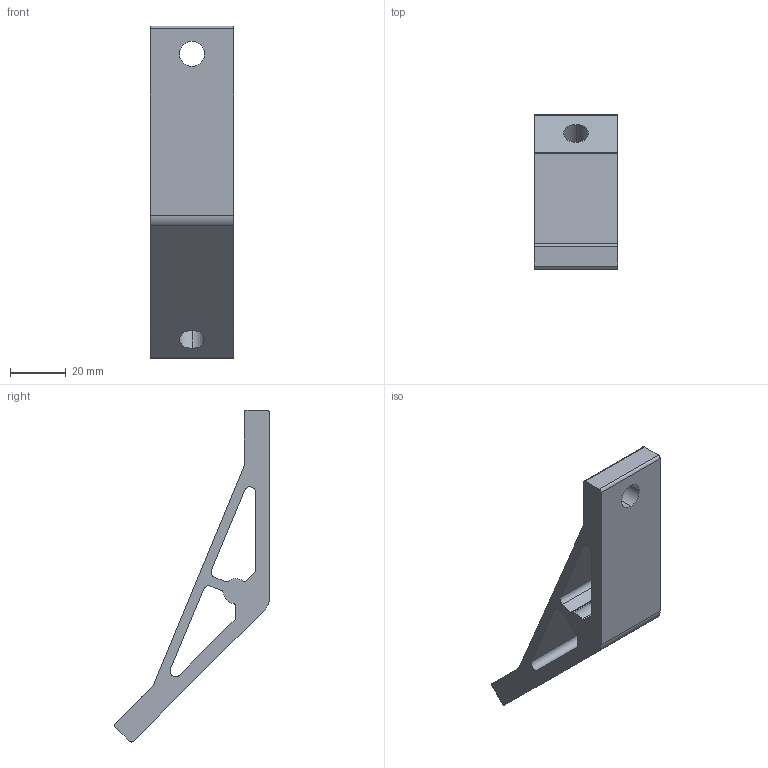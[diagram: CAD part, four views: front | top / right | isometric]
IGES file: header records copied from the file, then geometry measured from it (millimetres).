
Start section: SolidWorks IGES file using analytic representation for surfaces
Global section: file name: C:\Documents and Settings\Administrator\デスクトップ\指定保存後4回目\SolidWorks\SF\SF40・45\Bracket\ハードブラケットL・DE\SFJ-N35.IGS; native system: SolidWorks 2006 by SolidWorks Corporation; preprocessor: SolidWorks 2006 by SolidWorks Corporation; author: Administrator; date: 061218.095203; units: millimetre
Bounding box: 30 x 55.44 x 119.08 mm (x, y, z)
Volume: 38333.8 mm3; surface area: 16421.7 mm2
Topology: 1 solids, 1 shells, 44 faces, 126 edges, 84 vertices
Faces by surface type: revolution 27, plane 17
